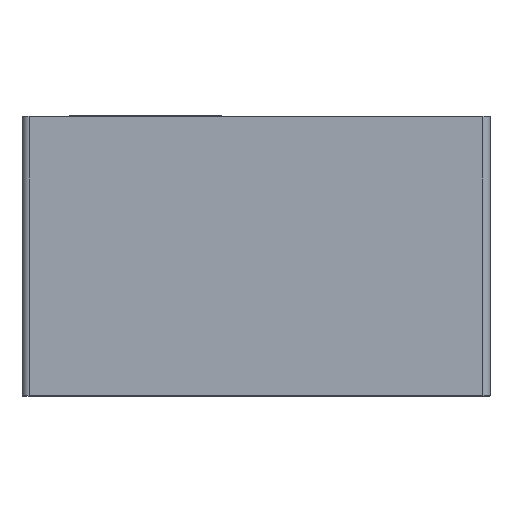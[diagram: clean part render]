
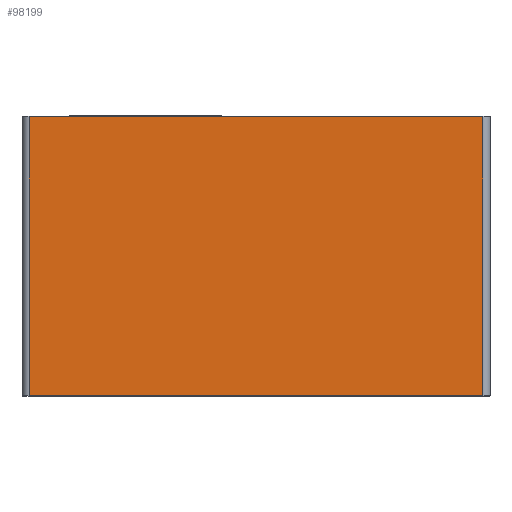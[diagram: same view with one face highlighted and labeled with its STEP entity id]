
A CAD part, front view. The second image highlights one B-rep face of the part: STEP entity #98199.
In plain terms, the highlighted planar face has unit normal (0, -1, 0).
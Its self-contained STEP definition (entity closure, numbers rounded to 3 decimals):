
#8425=FACE_OUTER_BOUND('',#14059,.T.);
#14059=EDGE_LOOP('',(#69471,#69472,#69473,#69474));
#21533=LINE('',#128973,#31778);
#21544=LINE('',#129060,#31789);
#21553=LINE('',#129125,#31798);
#21554=LINE('',#129127,#31799);
#31778=VECTOR('',#110929,10.);
#31789=VECTOR('',#110990,10.);
#31798=VECTOR('',#111029,10.);
#31799=VECTOR('',#111032,10.);
#41181=VERTEX_POINT('',#128963);
#41183=VERTEX_POINT('',#128969);
#41198=VERTEX_POINT('',#129052);
#41200=VERTEX_POINT('',#129058);
#51925=EDGE_CURVE('',#41181,#41183,#21533,.T.);
#51952=EDGE_CURVE('',#41200,#41198,#21544,.T.);
#51968=EDGE_CURVE('',#41183,#41200,#21553,.T.);
#51969=EDGE_CURVE('',#41198,#41181,#21554,.T.);
#69471=ORIENTED_EDGE('',*,*,#51952,.F.);
#69472=ORIENTED_EDGE('',*,*,#51968,.F.);
#69473=ORIENTED_EDGE('',*,*,#51925,.F.);
#69474=ORIENTED_EDGE('',*,*,#51969,.F.);
#94498=PLANE('',#103785);
#98199=ADVANCED_FACE('',(#8425),#94498,.T.);
#103785=AXIS2_PLACEMENT_3D('',#129126,#111030,#111031);
#110929=DIRECTION('',(1.,0.,0.));
#110990=DIRECTION('',(-1.,0.,0.));
#111029=DIRECTION('',(0.,0.,-1.));
#111030=DIRECTION('center_axis',(0.,-1.,0.));
#111031=DIRECTION('ref_axis',(1.,0.,0.));
#111032=DIRECTION('',(0.,0.,1.));
#128963=CARTESIAN_POINT('',(-95.5,-20.7,117.7));
#128969=CARTESIAN_POINT('',(95.5,-20.7,117.7));
#128973=CARTESIAN_POINT('',(-49.25,-20.7,117.7));
#129052=CARTESIAN_POINT('',(-95.5,-20.7,0.3));
#129058=CARTESIAN_POINT('',(95.5,-20.7,0.3));
#129060=CARTESIAN_POINT('',(-49.25,-20.7,0.3));
#129125=CARTESIAN_POINT('',(95.5,-20.7,0.));
#129126=CARTESIAN_POINT('Origin',(-98.5,-20.7,0.));
#129127=CARTESIAN_POINT('',(-95.5,-20.7,0.));
